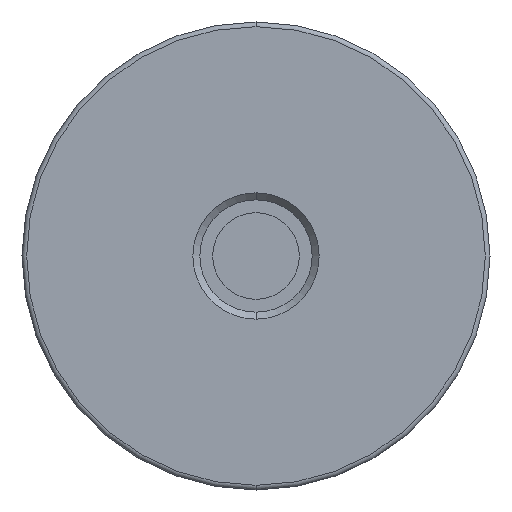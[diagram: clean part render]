
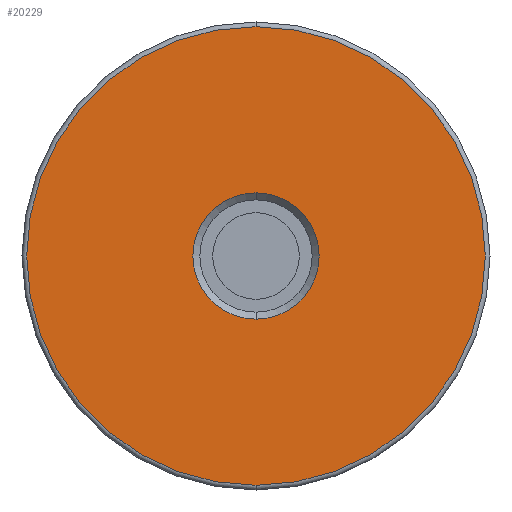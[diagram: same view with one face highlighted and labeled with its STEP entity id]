
A CAD part, front view. The second image highlights one B-rep face of the part: STEP entity #20229.
In plain terms, the highlighted planar face has unit normal (0, -1, 0).
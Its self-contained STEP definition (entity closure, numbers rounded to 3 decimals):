
#391 = CARTESIAN_POINT ( 'NONE',  ( -3.803, -172.705, 20.234 ) ) ;
#420 = CARTESIAN_POINT ( 'NONE',  ( -3.803, -172.705, 33.734 ) ) ;
#1800 = CIRCLE ( 'NONE', #24271, 49. ) ;
#3794 = CIRCLE ( 'NONE', #56991, 49. ) ;
#8132 = CARTESIAN_POINT ( 'NONE',  ( -3.803, -172.705, 20.234 ) ) ;
#8781 = DIRECTION ( 'NONE',  ( 0., 0., -1. ) ) ;
#9333 = EDGE_CURVE ( 'NONE', #36659, #23458, #1800, .T. ) ;
#9391 = FACE_OUTER_BOUND ( 'NONE', #27180, .T. ) ;
#10410 = ORIENTED_EDGE ( 'NONE', *, *, #9333, .T. ) ;
#10469 = CARTESIAN_POINT ( 'NONE',  ( -3.803, -172.705, 6.734 ) ) ;
#11421 = AXIS2_PLACEMENT_3D ( 'NONE', #391, #59912, #58672 ) ;
#11889 = CARTESIAN_POINT ( 'NONE',  ( -3.803, -172.705, 20.234 ) ) ;
#12333 = PLANE ( 'NONE',  #11421 ) ;
#13819 = DIRECTION ( 'NONE',  ( 0., 0., 1. ) ) ;
#17473 = EDGE_CURVE ( 'NONE', #17715, #54273, #18320, .T. ) ;
#17715 = VERTEX_POINT ( 'NONE', #10469 ) ;
#18320 = CIRCLE ( 'NONE', #19319, 13.5 ) ;
#19275 = DIRECTION ( 'NONE',  ( 0., 1., 0. ) ) ;
#19319 = AXIS2_PLACEMENT_3D ( 'NONE', #57706, #19275, #13819 ) ;
#19405 = ORIENTED_EDGE ( 'NONE', *, *, #17473, .T. ) ;
#20229 = ADVANCED_FACE ( 'NONE', ( #9391, #56210 ), #12333, .F. ) ;
#22637 = ORIENTED_EDGE ( 'NONE', *, *, #33418, .T. ) ;
#23458 = VERTEX_POINT ( 'NONE', #41899 ) ;
#24271 = AXIS2_PLACEMENT_3D ( 'NONE', #11889, #54810, #40016 ) ;
#25034 = EDGE_LOOP ( 'NONE', ( #19405, #22637 ) ) ;
#26407 = CIRCLE ( 'NONE', #29484, 13.5 ) ;
#27180 = EDGE_LOOP ( 'NONE', ( #46042, #10410 ) ) ;
#29484 = AXIS2_PLACEMENT_3D ( 'NONE', #62467, #48061, #34240 ) ;
#32563 = CARTESIAN_POINT ( 'NONE',  ( -3.803, -172.705, 69.234 ) ) ;
#33418 = EDGE_CURVE ( 'NONE', #54273, #17715, #26407, .T. ) ;
#34240 = DIRECTION ( 'NONE',  ( 0., 0., 1. ) ) ;
#36659 = VERTEX_POINT ( 'NONE', #32563 ) ;
#40016 = DIRECTION ( 'NONE',  ( 0., 0., -1. ) ) ;
#41899 = CARTESIAN_POINT ( 'NONE',  ( -3.803, -172.705, -28.766 ) ) ;
#43271 = DIRECTION ( 'NONE',  ( 0., -1., 0. ) ) ;
#46042 = ORIENTED_EDGE ( 'NONE', *, *, #57397, .T. ) ;
#48061 = DIRECTION ( 'NONE',  ( 0., 1., 0. ) ) ;
#54273 = VERTEX_POINT ( 'NONE', #420 ) ;
#54810 = DIRECTION ( 'NONE',  ( 0., -1., 0. ) ) ;
#56210 = FACE_BOUND ( 'NONE', #25034, .T. ) ;
#56991 = AXIS2_PLACEMENT_3D ( 'NONE', #8132, #43271, #8781 ) ;
#57397 = EDGE_CURVE ( 'NONE', #23458, #36659, #3794, .T. ) ;
#57706 = CARTESIAN_POINT ( 'NONE',  ( -3.803, -172.705, 20.234 ) ) ;
#58672 = DIRECTION ( 'NONE',  ( 1., 0., 0. ) ) ;
#59912 = DIRECTION ( 'NONE',  ( 0., 1., 0. ) ) ;
#62467 = CARTESIAN_POINT ( 'NONE',  ( -3.803, -172.705, 20.234 ) ) ;
